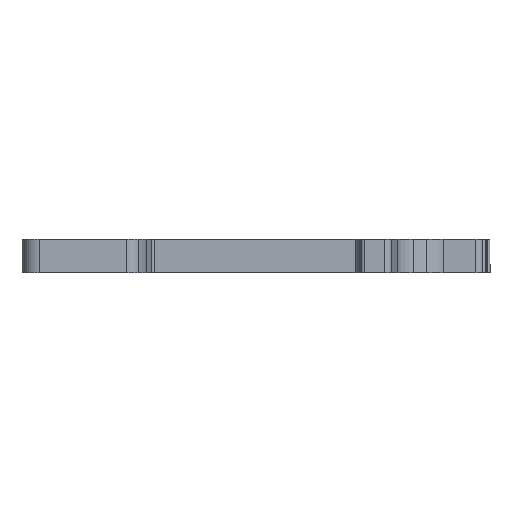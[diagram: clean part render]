
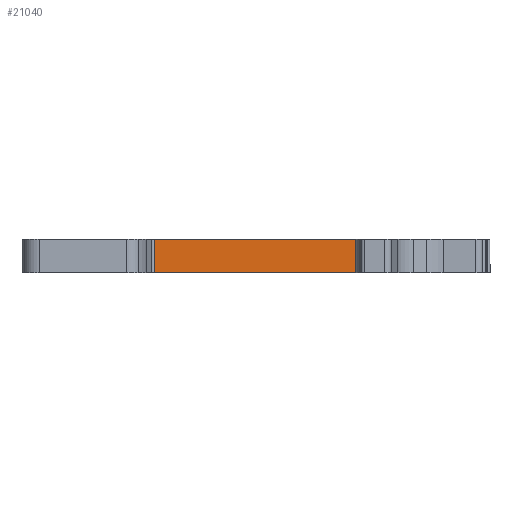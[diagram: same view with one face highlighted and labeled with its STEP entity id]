
A CAD part, front view. The second image highlights one B-rep face of the part: STEP entity #21040.
In plain terms, the highlighted planar face has unit normal (0, -1, 0).
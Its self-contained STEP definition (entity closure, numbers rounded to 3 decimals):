
#2670=CARTESIAN_POINT('',(17.5,0.,0.));
#2680=VERTEX_POINT('',#2670);
#2710=CARTESIAN_POINT('',(-14.8,0.,0.));
#2720=DIRECTION('',(1.,0.,0.));
#2730=VECTOR('',#2720,1.);
#2740=LINE('',#2710,#2730);
#2750=CARTESIAN_POINT('',(-14.8,0.,0.));
#2760=VERTEX_POINT('',#2750);
#2770=EDGE_CURVE('',#2760,#2680,#2740,.T.);
#20680=CARTESIAN_POINT('',(17.5,0.,-5.2));
#20690=VERTEX_POINT('',#20680);
#20720=CARTESIAN_POINT('',(17.5,0.,-5.2));
#20730=DIRECTION('',(0.,0.,1.));
#20740=VECTOR('',#20730,1.);
#20750=LINE('',#20720,#20740);
#20760=EDGE_CURVE('',#20690,#2680,#20750,.T.);
#20810=CARTESIAN_POINT('',(17.5,0.,0.));
#20820=DIRECTION('',(0.,1.,0.));
#20830=DIRECTION('',(1.,0.,0.));
#20840=AXIS2_PLACEMENT_3D('',#20810,#20820,#20830);
#20850=PLANE('',#20840);
#20860=ORIENTED_EDGE('',*,*,#2770,.F.);
#20870=ORIENTED_EDGE('',*,*,#20760,.T.);
#20880=CARTESIAN_POINT('',(17.5,0.,-5.2));
#20890=DIRECTION('',(-1.,0.,0.));
#20900=VECTOR('',#20890,1.);
#20910=LINE('',#20880,#20900);
#20920=CARTESIAN_POINT('',(-14.8,0.,-5.2));
#20930=VERTEX_POINT('',#20920);
#20940=EDGE_CURVE('',#20690,#20930,#20910,.T.);
#20950=ORIENTED_EDGE('',*,*,#20940,.F.);
#20960=CARTESIAN_POINT('',(-14.8,0.,-5.2));
#20970=DIRECTION('',(0.,0.,1.));
#20980=VECTOR('',#20970,1.);
#20990=LINE('',#20960,#20980);
#21000=EDGE_CURVE('',#20930,#2760,#20990,.T.);
#21010=ORIENTED_EDGE('',*,*,#21000,.F.);
#21020=EDGE_LOOP('',(#21010,#20950,#20870,#20860));
#21030=FACE_OUTER_BOUND('',#21020,.T.);
#21040=ADVANCED_FACE('',(#21030),#20850,.F.);
